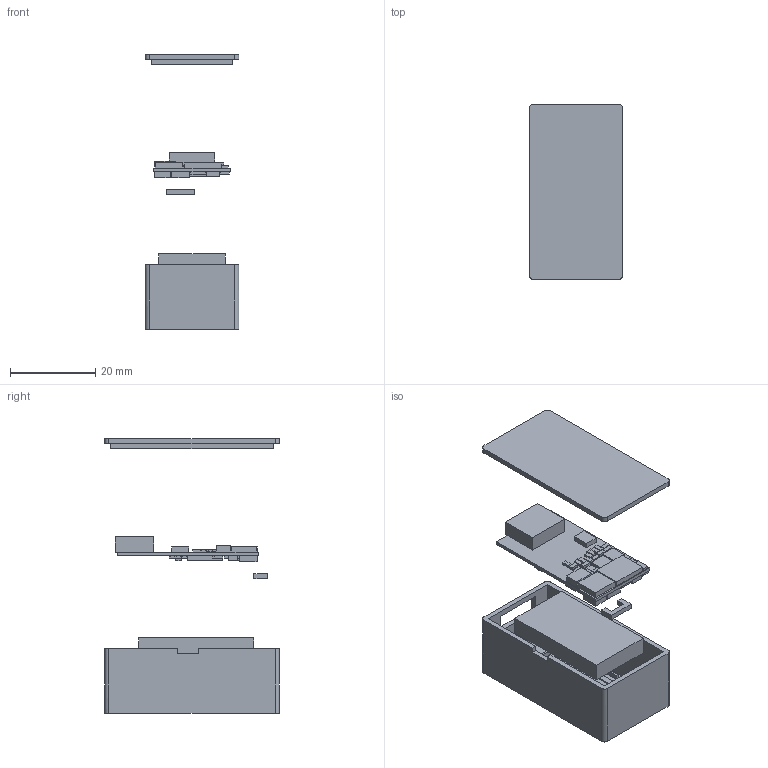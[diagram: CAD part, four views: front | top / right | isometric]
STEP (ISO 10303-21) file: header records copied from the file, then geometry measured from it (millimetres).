
FILE_DESCRIPTION(('SolidCraft model'),'2;1');
FILE_NAME('exploded.step','',(''),(''),'SolidCraft','SolidCraft','');
FILE_SCHEMA(('AP242_MANAGED_MODEL_BASED_3D_ENGINEERING_MIM_LF { 1 0 10303 442 1 1 4 }'));
Length unit declared in the file: millimetre
Products named in the file (1): exploded
Bounding box: 22 x 41 x 64.4 mm (x, y, z)
Volume: 7365.9 mm3; surface area: 10797.1 mm2
Topology: 5 solids, 5 shells, 481 faces, 1170 edges, 780 vertices
Faces by surface type: plane 473, cylinder 8
Entity records: 9775 total; most frequent: ORIENTED_EDGE 2340, EDGE_CURVE 1170, LINE 1154, CARTESIAN_POINT 994, VERTEX_POINT 780, EDGE_LOOP 564, FACE_BOUND 564, AXIS2_PLACEMENT_3D 482
